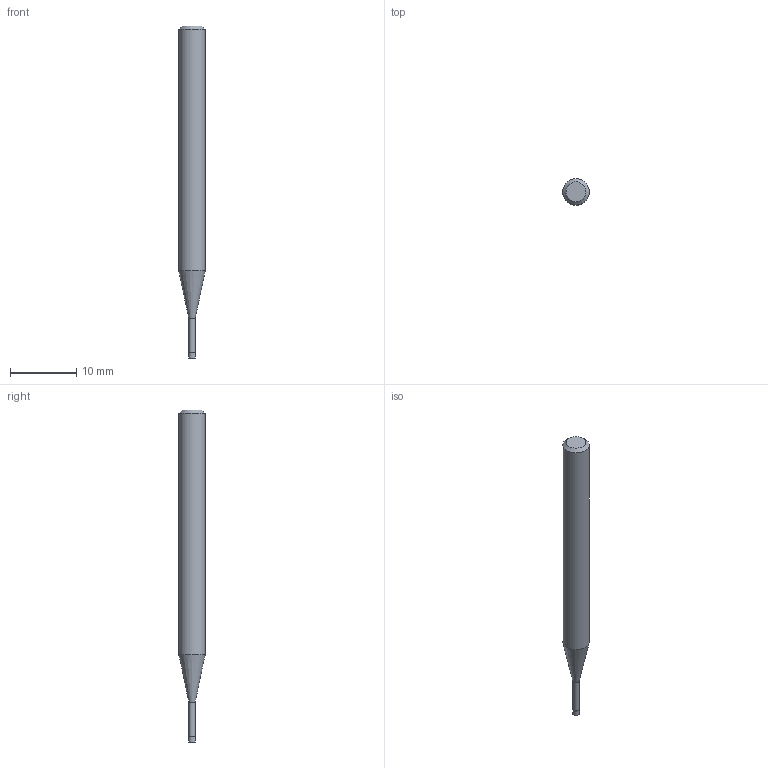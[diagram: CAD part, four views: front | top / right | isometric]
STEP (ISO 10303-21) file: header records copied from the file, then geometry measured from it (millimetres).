
FILE_DESCRIPTION((''),'2;1');
FILE_NAME('C:\Users\nsx150\AppData\Local\Temp\Mastercam 2021\3SYKECWX22\TEMP.step','2021-04-22T09:38:49',(''),(''),'STEP Write','Mastercam 2021 ... CNC Software, Inc.','');
FILE_SCHEMA(('AUTOMOTIVE_DESIGN'));
Length unit declared in the file: millimetre
Products named in the file (1): None
Bounding box: 4 x 4 x 50 mm (x, y, z)
Volume: 504.5 mm3; surface area: 548.7 mm2
Topology: 2 solids, 2 shells, 9 faces, 12 edges, 7 vertices
Faces by surface type: plane 4, cylinder 3, cone 2
Full cylindrical faces by diameter (mm): 0.95 x1, 1 x1, 4 x1
Entity records: 211 total; most frequent: DIRECTION 36, CARTESIAN_POINT 25, AXIS2_PLACEMENT_3D 18, ORIENTED_EDGE 14, EDGE_LOOP 14, STYLED_ITEM 12, ADVANCED_FACE 9, FACE_BOUND 8
